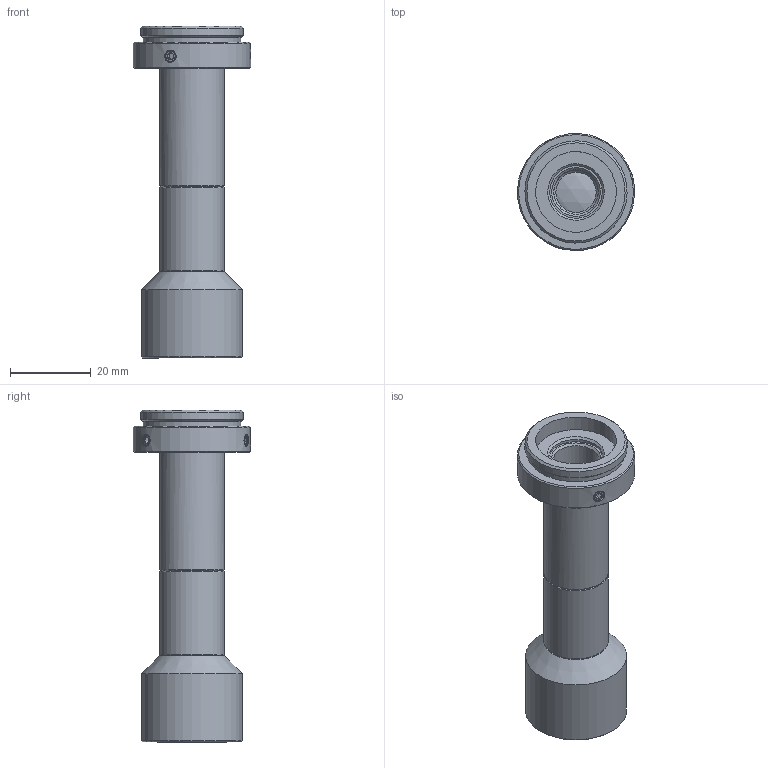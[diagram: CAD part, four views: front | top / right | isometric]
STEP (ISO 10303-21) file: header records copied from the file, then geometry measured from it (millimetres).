
FILE_DESCRIPTION(('STEP AP214'),'1');
FILE_NAME('RTK-2-M65.stp','2026-07-31T08:08:10',(' '),(' '),'Spatial InterOp 3D',' ',' ');
FILE_SCHEMA(('AUTOMOTIVE_DESIGN { 1 0 10303 214 1 1 1 1 }'));
Length unit declared in the file: metre
Products named in the file (2): RTK-2-M65; Component1
Assembly tree (1 placements, depth 2):
  RTK-2-M65
    Component1
Bounding box: 28.99 x 28.99 x 82.18 mm (x, y, z)
Volume: 14410.1 mm3; surface area: 11300.5 mm2
Topology: 1 solids, 1 shells, 128 faces, 295 edges, 195 vertices
Faces by surface type: plane 52, cone 46, cylinder 25, bspline 3, sphere 2
Full cylindrical faces by diameter (mm): 10 x1, 11 x1, 12.7 x1, 13 x2, 13.4 x1, 13.5 x1, 14 x1, 14.2 x1, 16 x4, 17.5 x2, 18 x1, 18.5 x1, 20 x1, 21 x2, 21.8 x1, 24.12 x1, 25 x1, 25.32 x1, 29 x1
Entity records: 4602 total; most frequent: CARTESIAN_POINT 949, DIRECTION 544, ORIENTED_EDGE 436, AXIS2_PLACEMENT_3D 226, EDGE_CURVE 218, EDGE_LOOP 208, VERTEX_POINT 172, FACE_OUTER_BOUND 156
